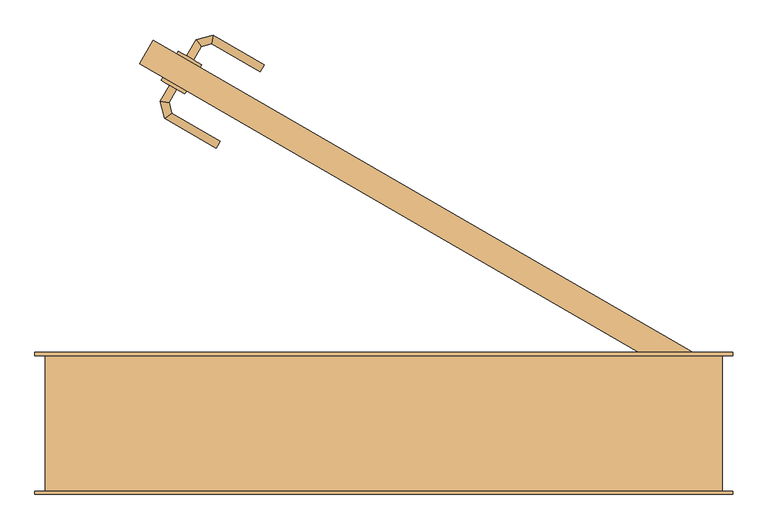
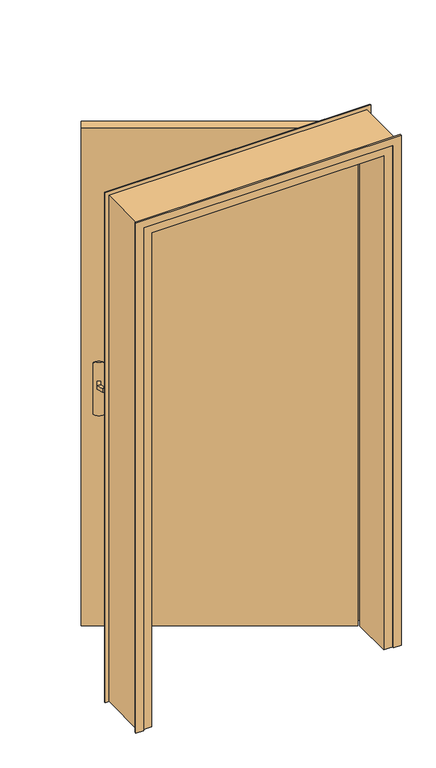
"""IFC4 building model written with IfcOpenShell, lengths in millimetres: door geometry, @_Int. Simple : @_PP (0.93m x 2.04m)."""

from ifc_helpers import new_model, si_unit, point, frame, frame_2d, origin, origin_with_axes, place, context, project, spatial, polyline, circle_curve, ellipse_curve, trimmed, segment, composite_curve, outline, extrude, faceted_brep, source, transform, mapped, element, save
from ifc_brep_helpers import plane_surface, cylinder_surface, advanced_brep


def door_f02ad49b(model_context):
    return source(origin(), model_context, "Body", "SolidModel", [
        extrude(outline(composite_curve([segment(trimmed(circle_curve(frame_2d((0.0, 40.0)), 40.0), [point((34.6410162, 60.0000001))], [point((34.6410162, 20.0))], False, "CARTESIAN"), True, "CONTINUOUS"), segment(polyline([(34.6410162, 20.0), (-175.3589838, 20.0)]), True, "CONTINUOUS"), segment(trimmed(circle_curve(frame_2d((-140.7179676, 40.0)), 40.0), [point((-175.3589838, 20.0))], [point((-175.3589838, 60.0000001))], False, "CARTESIAN"), True, "CONTINUOUS"), segment(polyline([(-175.3589838, 60.0000001), (34.6410162, 60.0000001)]), True, "CONTINUOUS")], self_intersect=False)), frame((-288.8010851, 515.0, 904.6410162), z_axis=(0.5, 0.8660254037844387, 0.0), x_axis=(0.0, 0.0, -1.0)), (0.0, 0.0, 1.0), 5.0),
        extrude(outline(composite_curve([segment(trimmed(circle_curve(frame_2d((0.0, 40.0)), 40.0), [point((-34.6410162, 20.0))], [point((-34.6410162, 60.0000001))], False, "CARTESIAN"), True, "CONTINUOUS"), segment(polyline([(-34.6410162, 60.0000001), (175.3589838, 60.0000001)]), True, "CONTINUOUS"), segment(trimmed(circle_curve(frame_2d((140.7179676, 40.0)), 40.0), [point((175.3589838, 60.0000001))], [point((175.3589838, 20.0))], False, "CARTESIAN"), True, "CONTINUOUS"), segment(polyline([(175.3589838, 20.0), (-34.6410162, 20.0)]), True, "CONTINUOUS")], self_intersect=False)), frame((-311.3010851, 476.0288568, 1045.3589838), z_axis=(0.5, 0.8660254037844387, 0.0), x_axis=(0.0, 0.0, -1.0)), (0.0, 0.0, 1.0), 5.0),
        advanced_brep(
        [(-326.1382537, 542.330127, 1007.0), (-326.1382537, 542.330127, 993.0), (-315.7459489, 536.330127, 993.0), (-315.7459489, 536.330127, 1007.0), (-304.4057549, 555.9719192, 1007.0), (-312.3127784, 566.2765528, 1007.0), (-304.4057549, 555.9719192, 993.0), (-312.3127784, 566.2765528, 993.0), (-288.9044091, 560.1254922, 1007.0), (-287.2090427, 573.0030785, 1007.0), (-288.9044091, 560.1254922, 993.0), (-287.2090427, 573.0030785, 993.0), (-211.3093373, 529.1823632, 1007.0), (-217.3093373, 518.7900583, 1007.0), (-217.3093373, 518.7900583, 993.0), (-211.3093373, 529.1823632, 993.0)],
        [
            (0, 1),
            (1, 2, circle_curve(frame((-320.9421013, 539.330127, 1013.0457722), z_axis=(-0.5000000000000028, -0.866025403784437, 0.0), x_axis=(0.866025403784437, -0.5000000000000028, 0.0)), 20.9244589)),
            (2, 3),
            (3, 0, circle_curve(frame((-320.9421013, 539.330127, 986.9542278), z_axis=(-0.5000000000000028, -0.866025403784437, 0.0), x_axis=(0.866025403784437, -0.5000000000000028, 0.0)), 20.9244589)),
            (3, 4),
            (4, 5, ellipse_curve(frame((-308.3592666, 561.124236, 986.9542278), z_axis=(-0.7933533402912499, -0.6087614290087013, 0.0), x_axis=(0.6087614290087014, -0.7933533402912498, 0.0)), 22.6484711, 20.9244589)),
            (5, 0),
            (2, 6),
            (6, 4),
            (1, 7),
            (7, 6, ellipse_curve(frame((-308.3592666, 561.124236, 1013.0457722), z_axis=(-0.7933533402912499, -0.6087614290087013, 0.0), x_axis=(0.6087614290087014, -0.7933533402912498, 0.0)), 22.6484711, 20.9244589)),
            (5, 7),
            (4, 8),
            (8, 9, ellipse_curve(frame((-288.0567259, 566.5642854, 986.9542278), z_axis=(-0.9914448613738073, 0.13052619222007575, 0.0), x_axis=(-0.13052619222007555, -0.9914448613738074, 0.0)), 22.6484711, 20.9244589)),
            (9, 5),
            (6, 10),
            (10, 8),
            (7, 11),
            (11, 10, ellipse_curve(frame((-288.0567259, 566.5642854, 1013.0457722), z_axis=(-0.9914448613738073, 0.13052619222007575, 0.0), x_axis=(-0.13052619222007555, -0.9914448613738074, 0.0)), 22.6484711, 20.9244589)),
            (9, 11),
            (12, 13, circle_curve(frame((-214.3093373, 523.9862107, 986.9542278), z_axis=(0.8660254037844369, -0.500000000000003, 0.0), x_axis=(-0.500000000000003, -0.8660254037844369, 0.0)), 20.9244589)),
            (13, 14),
            (14, 15, circle_curve(frame((-214.3093373, 523.9862107, 1013.0457722), z_axis=(0.8660254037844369, -0.500000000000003, 0.0), x_axis=(-0.500000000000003, -0.8660254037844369, 0.0)), 20.9244589)),
            (15, 12),
            (8, 13),
            (12, 9),
            (10, 14),
            (11, 15),
        ],
        [
            plane_surface(frame((-328.926461, 543.9398992, 1000.0), z_axis=(-0.5000000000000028, -0.866025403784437, 0.0), x_axis=(0.0, 0.0, -1.0))),
            cylinder_surface(frame((-320.9421013, 539.330127, 986.9542278), z_axis=(-0.5000000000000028, -0.866025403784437, 0.0), x_axis=(0.866025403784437, -0.5000000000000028, 0.0)), 20.9244589),
            plane_surface(frame((-315.7459489, 536.330127, 1007.0), z_axis=(0.866025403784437, -0.5000000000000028, 0.0), x_axis=(0.5000000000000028, 0.866025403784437, 0.0))),
            cylinder_surface(frame((-320.9421013, 539.330127, 1013.0457722), z_axis=(-0.5000000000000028, -0.866025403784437, 0.0), x_axis=(0.866025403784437, -0.5000000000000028, 0.0)), 20.9244589),
            plane_surface(frame((-326.1382537, 542.330127, 993.0), z_axis=(-0.866025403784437, 0.5000000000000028, 0.0), x_axis=(0.5000000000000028, 0.866025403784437, 0.0))),
            cylinder_surface(frame((-308.3592666, 561.124236, 986.9542278), z_axis=(-0.96592582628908, -0.25881904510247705, 0.0), x_axis=(0.25881904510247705, -0.96592582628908, 0.0)), 20.9244589),
            plane_surface(frame((-304.4057549, 555.9719192, 1007.0), z_axis=(0.258819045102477, -0.96592582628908, 0.0), x_axis=(0.96592582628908, 0.258819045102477, 0.0))),
            cylinder_surface(frame((-308.3592666, 561.124236, 1013.0457722), z_axis=(-0.96592582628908, -0.25881904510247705, 0.0), x_axis=(0.25881904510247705, -0.96592582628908, 0.0)), 20.9244589),
            plane_surface(frame((-312.3127784, 566.2765528, 993.0), z_axis=(-0.258819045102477, 0.96592582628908, 0.0), x_axis=(0.96592582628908, 0.258819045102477, 0.0))),
            plane_surface(frame((-214.3093373, 523.9862107, 990.7804555), z_axis=(0.866025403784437, -0.5000000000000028, 0.0), x_axis=(-0.5000000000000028, -0.866025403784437, 0.0))),
            cylinder_surface(frame((-288.0567259, 566.5642854, 986.9542278), z_axis=(-0.8660254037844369, 0.500000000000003, 0.0), x_axis=(-0.500000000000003, -0.8660254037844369, 0.0)), 20.9244589),
            plane_surface(frame((-288.9044091, 560.1254922, 1007.0), z_axis=(-0.5000000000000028, -0.866025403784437, 0.0), x_axis=(0.866025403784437, -0.5000000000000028, 0.0))),
            cylinder_surface(frame((-288.0567259, 566.5642854, 1013.0457722), z_axis=(-0.8660254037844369, 0.500000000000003, 0.0), x_axis=(-0.500000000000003, -0.8660254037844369, 0.0)), 20.9244589),
            plane_surface(frame((-287.2090427, 573.0030785, 993.0), z_axis=(0.5000000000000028, 0.866025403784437, 0.0), x_axis=(0.866025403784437, -0.5000000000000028, 0.0))),
        ],
        [
            (0, [[1, 2, 3, 4]]),
            (1, [[5, 6, 7, -4]]),
            (2, [[8, 9, -5, -3]]),
            (3, [[10, 11, -8, -2]]),
            (4, [[-7, 12, -10, -1]]),
            (5, [[13, 14, 15, -6]]),
            (6, [[16, 17, -13, -9]]),
            (7, [[18, 19, -16, -11]]),
            (8, [[-15, 20, -18, -12]]),
            (9, [[21, 22, 23, 24]]),
            (10, [[25, -21, 26, -14]]),
            (11, [[27, -22, -25, -17]]),
            (12, [[28, -23, -27, -19]]),
            (13, [[-26, -24, -28, -20]]),
        ],
    ),
        advanced_brep(
        [(-340.7459489, 493.0288568, 993.0), (-351.1382537, 499.0288568, 993.0), (-351.1382537, 499.0288568, 1007.0), (-340.7459489, 493.0288568, 1007.0), (-351.9885511, 473.5560985, 1007.0), (-351.9885511, 473.5560985, 993.0), (-364.8661373, 475.2514649, 1007.0), (-364.8661373, 475.2514649, 993.0), (-347.7846464, 457.8669124, 1007.0), (-347.7846464, 457.8669124, 993.0), (-358.08928, 449.9598889, 1007.0), (-358.08928, 449.9598889, 993.0), (-276.285154, 416.5866612, 993.0), (-276.285154, 416.5866612, 1007.0), (-282.285154, 406.1943564, 1007.0), (-282.285154, 406.1943564, 993.0)],
        [
            (0, 1, circle_curve(frame((-345.9421013, 496.0288568, 1013.0457722), z_axis=(0.5000000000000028, 0.866025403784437, 0.0), x_axis=(-0.866025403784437, 0.5000000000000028, 0.0)), 20.9244589)),
            (1, 2),
            (2, 3, circle_curve(frame((-345.9421013, 496.0288568, 986.9542278), z_axis=(0.5000000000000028, 0.866025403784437, 0.0), x_axis=(-0.866025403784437, 0.5000000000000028, 0.0)), 20.9244589)),
            (3, 0),
            (3, 4),
            (4, 5),
            (5, 0),
            (2, 6),
            (6, 4, ellipse_curve(frame((-358.4273442, 474.4037817, 986.9542278), z_axis=(0.13052619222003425, 0.9914448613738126, 0.0), x_axis=(0.9914448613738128, -0.13052619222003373, 0.0)), 22.6484711, 20.9244589)),
            (1, 7),
            (7, 6),
            (5, 7, ellipse_curve(frame((-358.4273442, 474.4037817, 1013.0457722), z_axis=(0.13052619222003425, 0.9914448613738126, 0.0), x_axis=(0.9914448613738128, -0.13052619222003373, 0.0)), 22.6484711, 20.9244589)),
            (4, 8),
            (8, 9),
            (9, 5),
            (6, 10),
            (10, 8, ellipse_curve(frame((-352.9369632, 453.9134007, 986.9542278), z_axis=(-0.6087614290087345, 0.7933533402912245, 0.0), x_axis=(0.7933533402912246, 0.6087614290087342, 0.0)), 22.6484711, 20.9244589)),
            (7, 11),
            (11, 10),
            (9, 11, ellipse_curve(frame((-352.9369632, 453.9134007, 1013.0457722), z_axis=(-0.6087614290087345, 0.7933533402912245, 0.0), x_axis=(0.7933533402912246, 0.6087614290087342, 0.0)), 22.6484711, 20.9244589)),
            (12, 13),
            (13, 14, circle_curve(frame((-279.285154, 411.3905088, 986.9542278), z_axis=(0.866025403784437, -0.5000000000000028, 0.0), x_axis=(-0.5000000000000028, -0.866025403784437, 0.0)), 20.9244589)),
            (14, 15),
            (15, 12, circle_curve(frame((-279.285154, 411.3905088, 1013.0457722), z_axis=(0.866025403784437, -0.5000000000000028, 0.0), x_axis=(-0.5000000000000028, -0.866025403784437, 0.0)), 20.9244589)),
            (8, 13),
            (12, 9),
            (10, 14),
            (11, 15),
        ],
        [
            plane_surface(frame((-353.926461, 500.6386291, 1000.0), z_axis=(0.5000000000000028, 0.866025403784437, 0.0), x_axis=(0.0, 0.0, 1.0))),
            plane_surface(frame((-340.7459489, 493.0288568, 993.0), z_axis=(0.866025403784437, -0.5000000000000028, 0.0), x_axis=(-0.5000000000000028, -0.866025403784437, 0.0))),
            cylinder_surface(frame((-345.9421013, 496.0288568, 986.9542278), z_axis=(0.5000000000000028, 0.866025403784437, 0.0), x_axis=(-0.866025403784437, 0.5000000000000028, 0.0)), 20.9244589),
            plane_surface(frame((-351.1382537, 499.0288568, 1007.0), z_axis=(-0.866025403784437, 0.5000000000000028, 0.0), x_axis=(-0.5000000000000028, -0.866025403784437, 0.0))),
            cylinder_surface(frame((-345.9421013, 496.0288568, 1013.0457722), z_axis=(0.5000000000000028, 0.866025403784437, 0.0), x_axis=(-0.866025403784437, 0.5000000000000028, 0.0)), 20.9244589),
            plane_surface(frame((-351.9885511, 473.5560985, 993.0), z_axis=(0.9659258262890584, 0.2588190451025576, 0.0), x_axis=(0.2588190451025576, -0.9659258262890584, 0.0))),
            cylinder_surface(frame((-358.4273442, 474.4037817, 986.9542278), z_axis=(-0.2588190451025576, 0.9659258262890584, 0.0), x_axis=(-0.9659258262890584, -0.2588190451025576, 0.0)), 20.9244589),
            plane_surface(frame((-364.8661373, 475.2514649, 1007.0), z_axis=(-0.9659258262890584, -0.25881904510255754, 0.0), x_axis=(0.25881904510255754, -0.9659258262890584, 0.0))),
            cylinder_surface(frame((-358.4273442, 474.4037817, 1013.0457722), z_axis=(-0.2588190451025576, 0.9659258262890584, 0.0), x_axis=(-0.9659258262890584, -0.2588190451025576, 0.0)), 20.9244589),
            plane_surface(frame((-279.285154, 411.3905088, 990.7804555), z_axis=(0.866025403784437, -0.5000000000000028, 0.0), x_axis=(-0.5000000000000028, -0.866025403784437, 0.0))),
            plane_surface(frame((-347.7846464, 457.8669124, 993.0), z_axis=(0.5000000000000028, 0.866025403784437, 0.0), x_axis=(0.866025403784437, -0.5000000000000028, 0.0))),
            cylinder_surface(frame((-352.9369632, 453.9134007, 986.9542278), z_axis=(-0.866025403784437, 0.5000000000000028, 0.0), x_axis=(-0.5000000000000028, -0.866025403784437, 0.0)), 20.9244589),
            plane_surface(frame((-358.08928, 449.9598889, 1007.0), z_axis=(-0.5000000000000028, -0.866025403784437, 0.0), x_axis=(0.866025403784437, -0.5000000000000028, 0.0))),
            cylinder_surface(frame((-352.9369632, 453.9134007, 1013.0457722), z_axis=(-0.866025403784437, 0.5000000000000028, 0.0), x_axis=(-0.5000000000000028, -0.866025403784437, 0.0)), 20.9244589),
        ],
        [
            (0, [[1, 2, 3, 4]]),
            (1, [[5, 6, 7, -4]]),
            (2, [[8, 9, -5, -3]]),
            (3, [[10, 11, -8, -2]]),
            (4, [[-7, 12, -10, -1]]),
            (5, [[13, 14, 15, -6]]),
            (6, [[16, 17, -13, -9]]),
            (7, [[18, 19, -16, -11]]),
            (8, [[-15, 20, -18, -12]]),
            (9, [[21, 22, 23, 24]]),
            (10, [[25, -21, 26, -14]]),
            (11, [[27, -22, -25, -17]]),
            (12, [[28, -23, -27, -19]]),
            (13, [[-26, -24, -28, -20]]),
        ],
    ),
        extrude(outline(polyline([(-395.4036255, 530.3589838), (-375.4036255, 565.0), (430.0, 100.0), (410.0, 65.3589838), (-395.4036255, 530.3589838)])), origin_with_axes(), (0.0, 0.0, 1.0), 2040.0),
        faceted_brep([(-535.0, 100.0, 0.0), (-500.0, 100.0, 0.0), (-500.0, 60.0, 0.0), (-485.0, 60.0, 0.0), (-485.0, -100.0, 0.0), (-535.0, -100.0, 0.0), (-535.0, -100.0, 2075.0), (-535.0, 100.0, 2075.0), (-485.0, -100.0, 2025.0), (415.0, -100.0, 2025.0), (415.0, -100.0, 0.0), (465.0, -100.0, 0.0), (465.0, -100.0, 2075.0), (-485.0, 60.0, 2025.0), (-500.0, 60.0, 2040.0), (430.0, 60.0, 2040.0), (430.0, 60.0, 0.0), (415.0, 60.0, 0.0), (415.0, 60.0, 2025.0), (-500.0, 100.0, 2040.0), (465.0, 100.0, 2075.0), (465.0, 100.0, 0.0), (430.0, 100.0, 0.0), (430.0, 100.0, 2040.0)], [[[0, 1, 2, 3, 4, 5]], [[5, 6, 7, 0]], [[4, 8, 9, 10, 11, 12, 6, 5]], [[3, 13, 8, 4]], [[2, 14, 15, 16, 17, 18, 13, 3]], [[1, 19, 14, 2]], [[0, 7, 20, 21, 22, 23, 19, 1]], [[12, 11, 21, 20]], [[21, 11, 10, 17, 16, 22]], [[18, 17, 10, 9]], [[23, 22, 16, 15]], [[6, 12, 20, 7]], [[13, 18, 9, 8]], [[19, 23, 15, 14]]]),
        extrude(outline(polyline([(0.0, -520.0), (2060.0, -520.0), (2060.0, 450.0), (0.0, 450.0), (0.0, 480.0), (2090.0, 480.0), (2090.0, -550.0), (0.0, -550.0), (0.0, -520.0)])), frame((0.0, 100.0, 0.0), z_axis=(0.0, 1.0, 0.0), x_axis=(0.0, 0.0, 1.0)), (0.0, 0.0, 1.0), 5.0),
        extrude(outline(polyline([(0.0, -520.0), (2060.0, -520.0), (2060.0, 450.0), (0.0, 450.0), (0.0, 480.0), (2090.0, 480.0), (2090.0, -550.0), (0.0, -550.0), (0.0, -520.0)])), frame((0.0, -105.0, 0.0), z_axis=(0.0, 1.0, 0.0), x_axis=(0.0, 0.0, 1.0)), (0.0, 0.0, 1.0), 5.0),
    ])


if __name__ == "__main__":
    model = new_model("IFC4")
    model_context = context("Model", 3, world=origin())
    ifc_project = project(units=[si_unit("LENGTHUNIT", "METRE", prefix="MILLI")], contexts=[model_context])
    site = spatial("IfcSite", under=ifc_project)
    building = spatial("IfcBuilding", under=site)
    placement = place(None, origin())
    door_shape = door_f02ad49b(model_context)
    element("IfcDoor", 1, ObjectType="@_Int. Simple : @_PP (0.93m x 2.04m)", at=placement, inside=building, context=model_context, shape_type="MappedRepresentation", body=[
        mapped(door_shape, transform((0.0, 0.0, 0.0), x_axis=(1.0, 0.0, 0.0), y_axis=(0.0, 1.0, 0.0), z_axis=(0.0, 0.0, 1.0))),
    ])
    save(model, "model.ifc")
